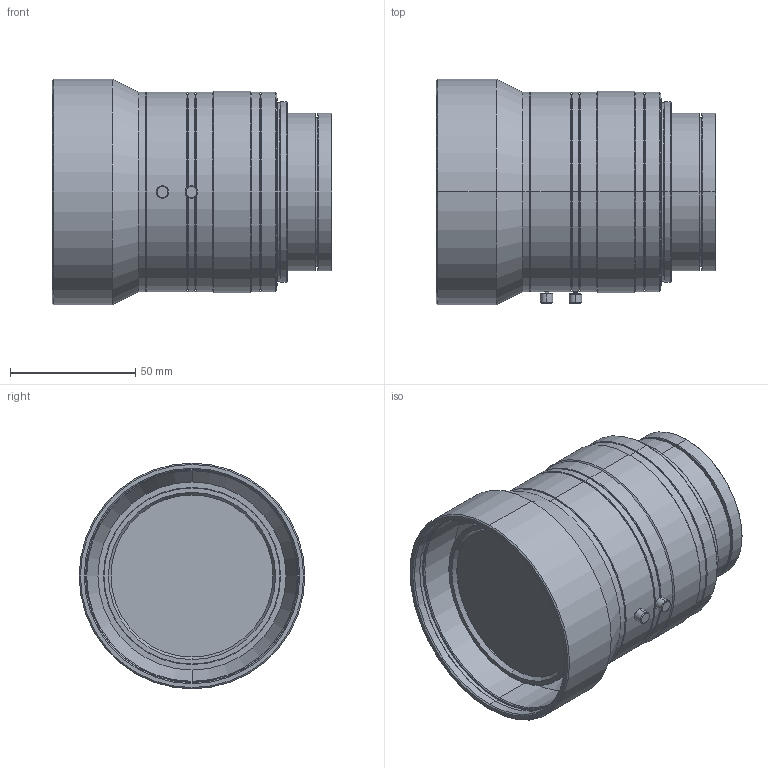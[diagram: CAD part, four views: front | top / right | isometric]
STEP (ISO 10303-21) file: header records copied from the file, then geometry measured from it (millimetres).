
FILE_DESCRIPTION (( 'STEP AP203' ), '1' );
FILE_NAME ('VS-L5045FL_M72S123.STEP', '2020-02-06T01:13:52', ( '' ), ( '' ), 'SwSTEP 2.0', 'SolidWorks 2017', '' );
FILE_SCHEMA (( 'CONFIG_CONTROL_DESIGN' ));
Length unit declared in the file: millimetre
Products named in the file (1): VS-L5045FL_M72S123
Bounding box: 111.46 x 90 x 90 mm (x, y, z)
Volume: 445016.5 mm3; surface area: 58092.1 mm2
Topology: 3 solids, 3 shells, 198 faces, 390 edges, 225 vertices
Faces by surface type: cone 100, cylinder 64, plane 32, sphere 2
Entity records: 5133 total; most frequent: DIRECTION 1014, CARTESIAN_POINT 814, ORIENTED_EDGE 780, AXIS2_PLACEMENT_3D 425, EDGE_CURVE 390, CIRCLE 226, VERTEX_POINT 225, EDGE_LOOP 225
